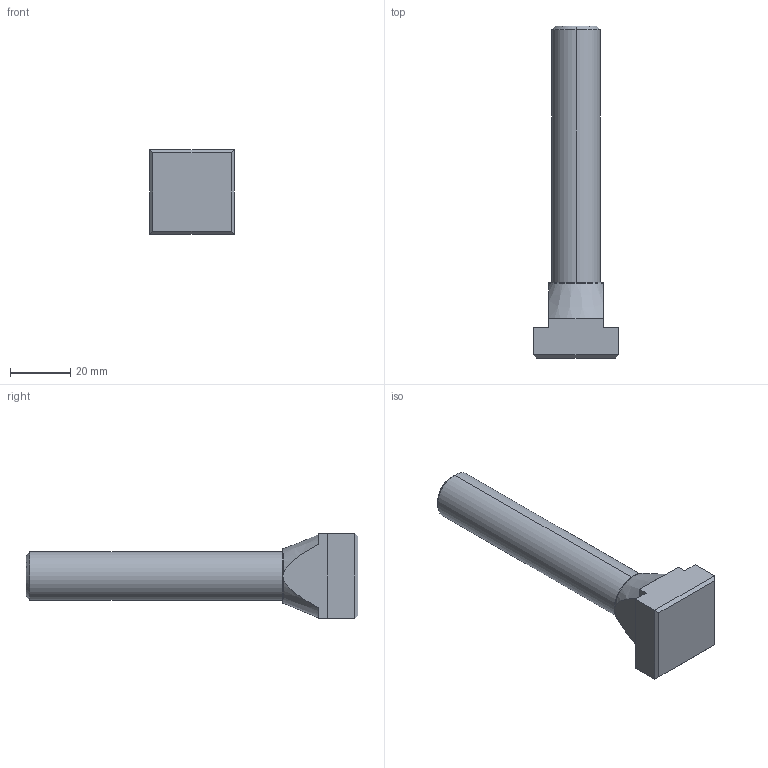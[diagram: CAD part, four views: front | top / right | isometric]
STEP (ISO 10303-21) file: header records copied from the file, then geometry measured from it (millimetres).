
FILE_DESCRIPTION (( 'STEP AP203' ), '1' );
FILE_NAME ('Wiberger-din787_18-m16x100.step', '2016-07-01T13:16:43', ( 'Magnus' ), ( 'Microsoft' ), 'SwSTEP 2.0', 'SolidWorks 2016', '' );
FILE_SCHEMA (( 'CONFIG_CONTROL_DESIGN' ));
Length unit declared in the file: millimetre
Products named in the file (1): Wiberger-din787_18-m16x100
Bounding box: 28 x 110 x 28 mm (x, y, z)
Volume: 30675.8 mm3; surface area: 7796.3 mm2
Topology: 1 solids, 1 shells, 27 faces, 66 edges, 42 vertices
Faces by surface type: plane 17, cone 5, cylinder 5
Entity records: 929 total; most frequent: CARTESIAN_POINT 216, ORIENTED_EDGE 132, DIRECTION 130, EDGE_CURVE 66, AXIS2_PLACEMENT_3D 44, VECTOR 42, VERTEX_POINT 42, LINE 42
